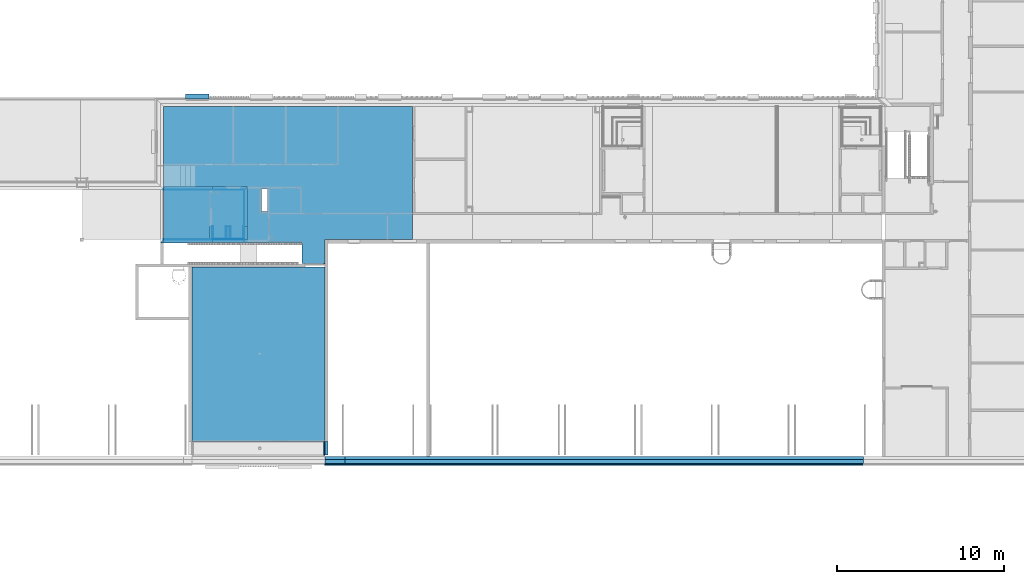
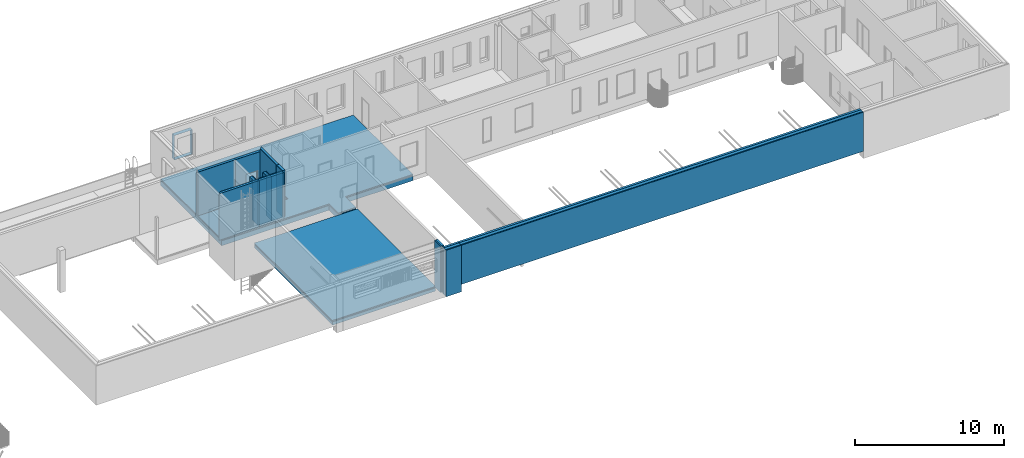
# One storey, part 19 of 100: 38 building element parts, 1 discrete accessory, 3 openings, 13 elements without a shape of their own.
"""IFC2X3 building model written with IfcOpenShell, lengths in millimetres."""

from ifc_helpers import new_model, entity, si_unit, converted_unit, derived_unit, money_unit, direction, frame, origin_with_axes, origin_2d_with_axis, place, context, subcontext, project, spatial, polyline, rectangle, outline, extrude, faceted_brep, source, transform, mapped, material, type_object, element, aggregate, save


model = new_model("IFC2X3")

# Units and contexts
model_context = context("Model", 3, precision=0.01, world=origin_with_axes(), true_north=direction((0.0, 1.0)))
body_context = subcontext(model_context, "Body", "Model", "MODEL_VIEW")
ifc_project = project(units=[si_unit("LENGTHUNIT", "METRE", prefix="MILLI"), si_unit("AREAUNIT", "SQUARE_METRE"), si_unit("VOLUMEUNIT", "CUBIC_METRE"), converted_unit("PLANEANGLEUNIT", "DEGREE", entity("IfcPlaneAngleMeasure", 0.0174532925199), si_unit("PLANEANGLEUNIT", "RADIAN"), dimensions=[0, 0, 0, 0, 0, 0, 0]), si_unit("SOLIDANGLEUNIT", "STERADIAN"), money_unit("EUR"), converted_unit("TIMEUNIT", "Year", entity("IfcTimeMeasure", 31556926.0), si_unit("TIMEUNIT", "SECOND"), dimensions=[0, 0, 1, 0, 0, 0, 0]), si_unit("MASSUNIT", "GRAM", prefix="KILO"), si_unit("THERMODYNAMICTEMPERATUREUNIT", "DEGREE_CELSIUS"), si_unit("LUMINOUSINTENSITYUNIT", "LUMEN"), si_unit("ENERGYUNIT", "JOULE", prefix="MEGA"), derived_unit("THERMALCONDUCTANCEUNIT", [(si_unit("POWERUNIT", "WATT"), 1), (si_unit("LENGTHUNIT", "METRE"), -1), (si_unit("THERMODYNAMICTEMPERATUREUNIT", "KELVIN"), -1)]), derived_unit("SPECIFICHEATCAPACITYUNIT", [(si_unit("ENERGYUNIT", "JOULE"), 1), (si_unit("MASSUNIT", "GRAM", prefix="KILO"), -1), (si_unit("THERMODYNAMICTEMPERATUREUNIT", "KELVIN"), -1)]), derived_unit("MASSDENSITYUNIT", [(si_unit("MASSUNIT", "GRAM", prefix="KILO"), 1), (si_unit("VOLUMEUNIT", "CUBIC_METRE"), -1)])], contexts=[model_context])

# Site, building, storey
site_placement = place(None, origin_with_axes())
site = spatial("IfcSite", under=ifc_project, at=site_placement, Name="Politse- ja Piirivalveameti ning Päästeameti ühishoone", CompositionType="ELEMENT")
building_placement = place(site_placement, origin_with_axes())
building = spatial("IfcBuilding", under=site, at=building_placement, Name="Politse- ja Piirivalveameti ning Päästeameti ühishoone", CompositionType="ELEMENT")
storey_placement = place(building_placement, frame((0.0, 0.0, 3800.0), z_axis=(0.0, 0.0, 1.0), x_axis=(1.0, 0.0, 0.0)))
storey = spatial("IfcBuildingStorey", under=building, at=storey_placement, Name="Teine korrus", CompositionType="ELEMENT", Elevation=3800.0)

# Discrete accessory
ifc_material_1 = material(Name="SV-01_Krohv - Kips")
discrete_accessory_type = type_object("IfcDiscreteAccessoryType", Name="Architrave 01 23")
shared_shape = source(origin_with_axes(), body_context, "Body", "Brep", [
    faceted_brep([(700.0, 0.0, -10.0), (700.0, -300.182356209, -10.0), (-700.0, -300.182356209, -10.0), (-700.0, 0.0, -10.0), (690.0, 0.0, 0.0), (690.0, -300.182356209, 0.0), (-690.0, -300.182356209, 0.0), (-690.0, 0.0, 0.0)], [[[0, 1, 2, 3]], [[4, 5, 1, 0]], [[1, 5, 6, 2]], [[3, 2, 6, 7]], [[0, 3, 7, 4]], [[7, 6, 5, 4]]]),
    faceted_brep([(-700.0, 0.0, -10.0), (-700.0, -300.182356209, -10.0), (-700.0, -300.182356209, 1990.0), (-700.0, 0.0, 1990.0), (-690.0, 0.0, 0.0), (-690.0, -300.182356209, 0.0), (-690.0, -300.182356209, 1980.0), (-690.0, 0.0, 1980.0)], [[[0, 1, 2, 3]], [[4, 5, 1, 0]], [[1, 5, 6, 2]], [[3, 2, 6, 7]], [[0, 3, 7, 4]], [[7, 6, 5, 4]]]),
    faceted_brep([(-700.0, 0.0, 1990.0), (-700.0, -300.182356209, 1990.0), (700.0, -300.182356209, 1990.0), (700.0, 0.0, 1990.0), (-690.0, 0.0, 1980.0), (-690.0, -300.182356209, 1980.0), (690.0, -300.182356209, 1980.0), (690.0, 0.0, 1980.0)], [[[0, 1, 2, 3]], [[4, 5, 1, 0]], [[1, 5, 6, 2]], [[3, 2, 6, 7]], [[0, 3, 7, 4]], [[7, 6, 5, 4]]]),
    faceted_brep([(700.0, 0.0, 1990.0), (700.0, -300.182356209, 1990.0), (700.0, -300.182356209, -10.0), (700.0, 0.0, -10.0), (690.0, 0.0, 1980.0), (690.0, -300.182356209, 1980.0), (690.0, -300.182356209, 0.0), (690.0, 0.0, 0.0)], [[[0, 1, 2, 3]], [[4, 5, 1, 0]], [[1, 5, 6, 2]], [[3, 2, 6, 7]], [[0, 3, 7, 4]], [[7, 6, 5, 4]]]),
])
discrete_accessory_placement = place(storey_placement, frame((18908.8836062, 21429.9520832, 810.0), z_axis=(0.0, 0.0, 1.0), x_axis=(-1.0, 0.0, 0.0)))
element("IfcDiscreteAccessory", 1, at=discrete_accessory_placement, inside=storey, type_object=discrete_accessory_type, material=ifc_material_1, Name="AKNARAAM 01", context=body_context, shape_type="MappedRepresentation", body=[
    mapped(shared_shape, transform((0.0, 0.0, 0.0))),
])

# Wall, building element parts
wall_type_1 = type_object("IfcWallType", Name="SS-05_Sisesein - relvaruum 205", PredefinedType="NOTDEFINED")
wall_1_placement = place(storey_placement, frame((16915.2858198, 13015.0198611, 0.0), z_axis=(0.0, 0.0, 1.0), x_axis=(1.0, 0.0, 0.0)))
wall_1 = element("IfcWall", 2, at=wall_1_placement, inside=storey, type_object=wall_type_1, Name="SS-05")
ifc_material_2 = material(Name="ET-05_Teras")
building_element_part_1_placement = place(wall_1_placement, origin_with_axes())
building_element_part_1 = element("IfcBuildingElementPart", 3, at=building_element_part_1_placement, material=ifc_material_2, Name="ET-05_Teras", context=body_context, shape_type="SweptSolid", body=[
    extrude(outline(polyline([(-15.0, -15.0), (2905.10605219, -15.0), (2904.74019853, 0.0), (0.0, 0.0), (-15.0, -15.0)])), origin_with_axes(), (0.0, 0.0, 1.0), 3800.0),
])
ifc_material_3 = material(Name="KON-05_Betoon Plokk - Konstuktsioon")
building_element_part_2_placement = place(wall_1_placement, origin_with_axes())
building_element_part_2 = element("IfcBuildingElementPart", 4, at=building_element_part_2_placement, material=ifc_material_3, Name="KON-05_Betoon Plokk - Konstuktsioon", context=body_context, shape_type="SweptSolid", body=[
    extrude(outline(polyline([(-205.0, -205.0), (2909.74019853, -205.0), (2905.10605219, -15.0), (-15.0, -15.0), (-205.0, -205.0)])), origin_with_axes(), (0.0, 0.0, 1.0), 3800.0),
])
aggregate(wall_1, [building_element_part_1, building_element_part_2])

# Slab, building element parts
slab_type_1 = type_object("IfcSlabType", Name="VL-04_Vahelagi   265 paneel 385", PredefinedType="ROOF")
slab_1_placement = place(storey_placement, frame((26569.7008828, 899.772752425, 5.55434094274e-05), z_axis=(0.0, 0.0, 1.0), x_axis=(1.0, 0.0, 0.0)))
slab_1 = element("IfcSlab", 5, at=slab_1_placement, inside=storey, type_object=slab_type_1, Name="VL-04", PredefinedType="ROOF")
ifc_material_4 = material(Name="KON-06_Raudbetoon - Konstruktsioon")
building_element_part_3_placement = place(slab_1_placement, origin_with_axes())
building_element_part_3 = element("IfcBuildingElementPart", 6, at=building_element_part_3_placement, material=ifc_material_4, Name="KON-06_Raudbetoon - Konstruktsioon", context=body_context, shape_type="SweptSolid", body=[
    extrude(outline(polyline([(0.0, 0.0), (0.0, 10470.2471087), (-7979.61277161, 10470.2471087), (-7979.61277161, 0.0), (0.0, 0.0)])), frame((0.0, 0.0, -385.0), z_axis=(0.0, 0.0, 1.0), x_axis=(1.0, 0.0, 0.0)), (0.0, 0.0, 1.0), 265.0),
])
ifc_material_5 = material(Name="SOJ-04_Soojustus - Mineraal Kõva")
building_element_part_4_placement = place(slab_1_placement, origin_with_axes())
building_element_part_4 = element("IfcBuildingElementPart", 7, at=building_element_part_4_placement, material=ifc_material_5, Name="SOJ-04_Soojustus - Mineraal Kõva", context=body_context, shape_type="SweptSolid", body=[
    extrude(outline(polyline([(0.0, 0.0), (0.0, 10470.2471087), (-7979.61277161, 10470.2471087), (-7979.61277161, 0.0), (0.0, 0.0)])), frame((0.0, 0.0, -120.0), z_axis=(0.0, 0.0, 1.0), x_axis=(1.0, 0.0, 0.0)), (0.0, 0.0, 1.0), 30.0),
])
ifc_material_6 = material(Name="VKR-01_Betoon")
building_element_part_5_placement = place(slab_1_placement, origin_with_axes())
building_element_part_5 = element("IfcBuildingElementPart", 8, at=building_element_part_5_placement, material=ifc_material_6, Name="VKR-01_Betoon", context=body_context, shape_type="SweptSolid", body=[
    extrude(outline(polyline([(0.0, 0.0), (0.0, 10470.2471087), (-7979.61277161, 10470.2471087), (-7979.61277161, 0.0), (0.0, 0.0)])), frame((0.0, 0.0, -90.0), z_axis=(0.0, 0.0, 1.0), x_axis=(1.0, 0.0, 0.0)), (0.0, 0.0, 1.0), 90.0),
])
aggregate(slab_1, [building_element_part_3, building_element_part_4, building_element_part_5])

# Wall, building element parts
wall_2_placement = place(storey_placement, frame((16915.2858198, 15984.8176113, 0.0), z_axis=(0.0, 0.0, 1.0), x_axis=(1.0, 0.0, 0.0)))
wall_2 = element("IfcWall", 9, at=wall_2_placement, inside=storey, type_object=wall_type_1, Name="SS-05")
building_element_part_6_placement = place(wall_2_placement, origin_with_axes())
building_element_part_6 = element("IfcBuildingElementPart", 10, at=building_element_part_6_placement, material=ifc_material_2, Name="ET-05_Teras", context=body_context, shape_type="SweptSolid", body=[
    extrude(outline(polyline([(0.0, 0.0), (2904.74019853, 0.0), (2904.74019853, 15.0), (0.0, 15.0), (0.0, 0.0)])), origin_with_axes(), (0.0, 0.0, 1.0), 3575.0),
])
building_element_part_7_placement = place(wall_2_placement, origin_with_axes())
building_element_part_7 = element("IfcBuildingElementPart", 11, at=building_element_part_7_placement, material=ifc_material_3, Name="KON-05_Betoon Plokk - Konstuktsioon", context=body_context, shape_type="SweptSolid", body=[
    extrude(outline(polyline([(0.0, 15.0), (2904.74019853, 15.0), (2904.74019853, 205.0), (0.0, 205.0), (0.0, 15.0)])), origin_with_axes(), (0.0, 0.0, 1.0), 3575.0),
])
aggregate(wall_2, [building_element_part_6, building_element_part_7])

wall_3_placement = place(storey_placement, frame((21715.0260184, 15984.8176113, 0.0), z_axis=(0.0, 0.0, 1.0), x_axis=(0.0, -1.0, 0.0)))
wall_3 = element("IfcWall", 12, at=wall_3_placement, inside=storey, type_object=wall_type_1, Name="SS-05")
building_element_part_8_placement = place(wall_3_placement, origin_with_axes())
building_element_part_8 = element("IfcBuildingElementPart", 13, at=building_element_part_8_placement, material=ifc_material_2, Name="ET-05_Teras", context=body_context, shape_type="SweptSolid", body=[
    extrude(outline(polyline([(0.0, 0.0), (2184.79775023, 0.0), (2184.79775023, 15.0), (-15.0, 15.0), (0.0, 0.0)])), origin_with_axes(), (0.0, 0.0, 1.0), 3800.0),
])
building_element_part_9_placement = place(wall_3_placement, origin_with_axes())
building_element_part_9 = element("IfcBuildingElementPart", 14, at=building_element_part_9_placement, material=ifc_material_3, Name="KON-05_Betoon Plokk - Konstuktsioon", context=body_context, shape_type="SweptSolid", body=[
    extrude(outline(polyline([(-15.0, 15.0), (2184.79775023, 15.0), (2184.79775023, 205.0), (-205.0, 205.0), (-15.0, 15.0)])), origin_with_axes(), (0.0, 0.0, 1.0), 3800.0),
])
aggregate(wall_3, [building_element_part_8, building_element_part_9])

# Slab, opening, building element parts
slab_type_2 = type_object("IfcSlabType", Name="VL-05_Vahelagi   400 paneel 520", PredefinedType="NOTDEFINED")
slab_2_placement = place(storey_placement, frame((16900.0594076, 20999.8074993, 0.0), z_axis=(0.0, 0.0, 1.0), x_axis=(1.0, 0.0, 0.0)))
slab_2 = element("IfcSlab", 15, at=slab_2_placement, inside=storey, type_object=slab_type_2, Name="VL-05", PredefinedType="NOTDEFINED")
opening_1_placement = place(slab_2_placement, frame((5869.96995732, -4949.80621906, 0.0), z_axis=(0.0, 0.0, 1.0), x_axis=(-4.17300474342e-06, -0.999999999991, 0.0)))
element("IfcOpeningElement", 16, at=opening_1_placement, cuts=slab_2, Name="Slab Opening", context=body_context, shape_type="SweptSolid", body=[
    extrude(outline(polyline([(0.0, 0.0), (1359.95836559, 0.0), (1359.95690503, 350.000000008), (-6.03161964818e-09, 350.000000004), (0.0, 0.0)])), frame((0.0, 0.0, -520.0), z_axis=(0.0, 0.0, 1.0), x_axis=(1.0, 0.0, 0.0)), (0.0, 0.0, 1.0), 520.0),
])
building_element_part_10_placement = place(slab_2_placement, origin_with_axes())
building_element_part_10 = element("IfcBuildingElementPart", 17, at=building_element_part_10_placement, material=ifc_material_4, Name="KON-06_Raudbetoon - Konstruktsioon", context=body_context, shape_type="SweptSolid", body=[
    extrude(outline(polyline([(0.0, 0.0), (0.226314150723, -8189.78764638), (8299.96656827, -8189.78764638), (8299.96656827, -9434.78763818), (9669.64147523, -9439.78763818), (9669.64158211, -7999.78756957), (14909.9706085, -7999.78756957), (14909.9706085, 0.049768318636), (0.0, 0.0)])), frame((0.0, 0.0, -520.0), z_axis=(0.0, 0.0, 1.0), x_axis=(1.0, 0.0, 0.0)), (0.0, 0.0, 1.0), 400.0),
])
building_element_part_11_placement = place(slab_2_placement, origin_with_axes())
building_element_part_11 = element("IfcBuildingElementPart", 18, at=building_element_part_11_placement, material=ifc_material_5, Name="SOJ-04_Soojustus - Mineraal Kõva", context=body_context, shape_type="SweptSolid", body=[
    extrude(outline(polyline([(0.0, 0.0), (0.226314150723, -8189.78764638), (8299.96656827, -8189.78764638), (8299.96656827, -9434.78763818), (9669.64147523, -9439.78763818), (9669.64158211, -7999.78756957), (14909.9706085, -7999.78756957), (14909.9706085, 0.049768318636), (0.0, 0.0)])), frame((0.0, 0.0, -120.0), z_axis=(0.0, 0.0, 1.0), x_axis=(1.0, 0.0, 0.0)), (0.0, 0.0, 1.0), 30.0),
])
building_element_part_12_placement = place(slab_2_placement, origin_with_axes())
building_element_part_12 = element("IfcBuildingElementPart", 19, at=building_element_part_12_placement, material=ifc_material_6, Name="VKR-01_Betoon", context=body_context, shape_type="SweptSolid", body=[
    extrude(outline(polyline([(0.0, 0.0), (0.226314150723, -8189.78764638), (8299.96656827, -8189.78764638), (8299.96656827, -9434.78763818), (9669.64147523, -9439.78763818), (9669.64158211, -7999.78756957), (14909.9706085, -7999.78756957), (14909.9706085, 0.049768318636), (0.0, 0.0)])), frame((0.0, 0.0, -90.0), z_axis=(0.0, 0.0, 1.0), x_axis=(1.0, 0.0, 0.0)), (0.0, 0.0, 1.0), 90.0),
])
aggregate(slab_2, [building_element_part_10, building_element_part_11, building_element_part_12])

# Wall, building element parts
wall_type_2 = type_object("IfcWallType", Name="VS-01_välissein 510", PredefinedType="NOTDEFINED")
wall_4_placement = place(storey_placement, frame((27759.7054332, 0.0, 600.0), z_axis=(0.0, 0.0, 1.0), x_axis=(1.0, 0.0, 0.0)))
wall_4 = element("IfcWall", 20, at=wall_4_placement, inside=storey, type_object=wall_type_2, Name="VS-01")
ifc_material_7 = material(Name="KON-04_Betoon - Konstuktsioon")
building_element_part_13_placement = place(wall_4_placement, origin_with_axes())
building_element_part_13 = element("IfcBuildingElementPart", 21, at=building_element_part_13_placement, material=ifc_material_7, Name="KON-04_Betoon - Konstuktsioon", context=body_context, shape_type="SweptSolid", body=[
    extrude(outline(polyline([(0.0, -180.0), (31100.8429647, -180.0), (31100.8429647, 0.0), (0.0, 0.0), (0.0, -180.0)])), origin_with_axes(), (0.0, 0.0, 1.0), 3200.0),
])
ifc_material_8 = material(Name="SOJ-06_Soojustus - Plastik Kõva")
building_element_part_14_placement = place(wall_4_placement, origin_with_axes())
building_element_part_14 = element("IfcBuildingElementPart", 22, at=building_element_part_14_placement, material=ifc_material_8, Name="SOJ-06_Soojustus - Plastik Kõva", context=body_context, shape_type="SweptSolid", body=[
    extrude(outline(polyline([(0.0, -430.0), (31100.8429647, -430.0), (31100.8429647, -180.0), (0.0, -180.0), (0.0, -430.0)])), origin_with_axes(), (0.0, 0.0, 1.0), 3200.0),
])
building_element_part_15_placement = place(wall_4_placement, origin_with_axes())
building_element_part_15 = element("IfcBuildingElementPart", 23, at=building_element_part_15_placement, material=ifc_material_7, Name="KON-04_Betoon - Konstuktsioon", context=body_context, shape_type="SweptSolid", body=[
    extrude(outline(polyline([(0.0, -510.0), (31100.8429647, -510.0), (31100.8429647, -430.0), (0.0, -430.0), (0.0, -510.0)])), origin_with_axes(), (0.0, 0.0, 1.0), 3200.0),
])
aggregate(wall_4, [building_element_part_13, building_element_part_14, building_element_part_15])

# Wall, openings, building element parts
wall_5_placement = place(storey_placement, frame((19820.0260184, 15984.8176113, 0.0), z_axis=(0.0, 0.0, 1.0), x_axis=(1.0, 0.0, 0.0)))
wall_5 = element("IfcWall", 24, at=wall_5_placement, inside=storey, type_object=wall_type_1, Name="SS-05")
opening_2_placement = place(wall_5_placement, frame((1261.76314383, 0.0, 0.0), z_axis=(0.0, 0.0, 1.0), x_axis=(1.0, 0.0, 0.0)))
element("IfcOpeningElement", 25, at=opening_2_placement, cuts=wall_5, Name="TU-01-11", context=body_context, shape_type="SweptSolid", body=[
    extrude(rectangle(XDim=900.0, YDim=2100.0, at=origin_2d_with_axis()), frame((0.0, 90.0, 1050.0), z_axis=(0.0, -1.0, 0.0), x_axis=(1.0, 0.0, 0.0)), (0.0, 0.0, -1.0), 320.0),
    extrude(rectangle(XDim=900.0, YDim=2100.0, at=origin_2d_with_axis()), frame((0.0, 90.0, 1050.0), z_axis=(0.0, 1.0, 0.0), x_axis=(1.0, 0.0, 0.0)), (0.0, 0.0, -1.0), 295.0),
    extrude(rectangle(XDim=974.0, YDim=2137.0, at=origin_2d_with_axis()), frame((0.0, 205.0, 1068.5), z_axis=(0.0, -1.0, 0.0), x_axis=(1.0, 0.0, 0.0)), (0.0, 0.0, -1.0), 295.0),
    extrude(rectangle(XDim=974.0, YDim=2137.0, at=origin_2d_with_axis()), frame((0.0, 0.0, 1068.5), z_axis=(0.0, 1.0, 0.0), x_axis=(1.0, 0.0, 0.0)), (0.0, 0.0, -1.0), 295.0),
])
opening_3_placement = place(wall_5_placement, frame((1261.76314383, 0.0, 0.0), z_axis=(0.0, 0.0, 1.0), x_axis=(1.0, 0.0, 0.0)))
element("IfcOpeningElement", 26, at=opening_3_placement, cuts=wall_5, Name="SU-01-4", context=body_context, shape_type="SweptSolid", body=[
    extrude(rectangle(XDim=900.0, YDim=2100.0, at=origin_2d_with_axis()), frame((0.0, 205.0, 1050.0), z_axis=(0.0, 1.0, 0.0), x_axis=(1.0, 0.0, 0.0)), (0.0, 0.0, -1.0), 615.0),
    extrude(rectangle(XDim=974.0, YDim=2137.0, at=origin_2d_with_axis()), frame((0.0, 205.0, 1068.5), z_axis=(0.0, 1.0, 0.0), x_axis=(1.0, 0.0, 0.0)), (0.0, 0.0, 1.0), 205.0),
    extrude(rectangle(XDim=974.0, YDim=2137.0, at=origin_2d_with_axis()), frame((0.0, 0.0, 1068.5), z_axis=(0.0, -1.0, 0.0), x_axis=(1.0, 0.0, 0.0)), (0.0, 0.0, 1.0), 205.0),
])
building_element_part_16_placement = place(wall_5_placement, origin_with_axes())
building_element_part_16 = element("IfcBuildingElementPart", 27, at=building_element_part_16_placement, material=ifc_material_2, Name="ET-05_Teras", context=body_context, shape_type="SweptSolid", body=[
    extrude(outline(polyline([(0.0, 0.0), (1895.0, 0.0), (1910.0, 15.0), (0.0, 15.0), (0.0, 0.0)])), origin_with_axes(), (0.0, 0.0, 1.0), 3575.0),
])
building_element_part_17_placement = place(wall_5_placement, origin_with_axes())
building_element_part_17 = element("IfcBuildingElementPart", 28, at=building_element_part_17_placement, material=ifc_material_3, Name="KON-05_Betoon Plokk - Konstuktsioon", context=body_context, shape_type="SweptSolid", body=[
    extrude(outline(polyline([(0.0, 15.0), (1910.0, 15.0), (2100.0, 205.0), (0.0, 205.0), (0.0, 15.0)])), origin_with_axes(), (0.0, 0.0, 1.0), 3575.0),
])
aggregate(wall_5, [building_element_part_16, building_element_part_17])

# Wall, building element parts
wall_type_3 = type_object("IfcWallType", Name="SS-16_Sisesein 190 + puit 32 kahel pool 294", PredefinedType="NOTDEFINED")
wall_6_placement = place(storey_placement, frame((20775.0260184, 13800.0198611, 0.0), z_axis=(0.0, 0.0, 1.0), x_axis=(0.0, -1.0, 0.0)))
wall_6 = element("IfcWall", 29, at=wall_6_placement, inside=storey, type_object=wall_type_3, Name="SS-03")
ifc_material_9 = material(Name="ET-01_Puit - Konstruktsioon")
building_element_part_18_placement = place(wall_6_placement, origin_with_axes())
building_element_part_18 = element("IfcBuildingElementPart", 30, at=building_element_part_18_placement, material=ifc_material_9, Name="ET-01_Puit - Konstruktsioon", context=body_context, shape_type="SweptSolid", body=[
    extrude(outline(polyline([(0.0, -147.0), (780.0, -147.0), (780.0, -115.0), (0.0, -115.0), (0.0, -147.0)])), origin_with_axes(), (0.0, 0.0, 1.0), 3576.54246345),
])
ifc_material_10 = material(Name="Õhkvahe")
building_element_part_19_placement = place(wall_6_placement, origin_with_axes())
building_element_part_19 = element("IfcBuildingElementPart", 31, at=building_element_part_19_placement, material=ifc_material_10, Name="Õhkvahe", context=body_context, shape_type="SweptSolid", body=[
    extrude(outline(polyline([(0.0, -115.0), (780.0, -115.0), (780.0, -95.0), (0.0, -95.0), (0.0, -115.0)])), origin_with_axes(), (0.0, 0.0, 1.0), 3576.54246345),
])
building_element_part_20_placement = place(wall_6_placement, origin_with_axes())
building_element_part_20 = element("IfcBuildingElementPart", 32, at=building_element_part_20_placement, material=ifc_material_3, Name="KON-05_Betoon Plokk - Konstuktsioon", context=body_context, shape_type="SweptSolid", body=[
    extrude(outline(polyline([(0.0, -95.0), (780.0, -95.0), (780.0, 95.0), (0.0, 95.0), (0.0, -95.0)])), origin_with_axes(), (0.0, 0.0, 1.0), 3576.54246345),
])
building_element_part_21_placement = place(wall_6_placement, origin_with_axes())
building_element_part_21 = element("IfcBuildingElementPart", 33, at=building_element_part_21_placement, material=ifc_material_10, Name="Õhkvahe", context=body_context, shape_type="SweptSolid", body=[
    extrude(outline(polyline([(0.0, 95.0), (780.0, 95.0), (780.0, 115.0), (0.0, 115.0), (0.0, 95.0)])), origin_with_axes(), (0.0, 0.0, 1.0), 3576.54246345),
])
building_element_part_22_placement = place(wall_6_placement, origin_with_axes())
building_element_part_22 = element("IfcBuildingElementPart", 34, at=building_element_part_22_placement, material=ifc_material_9, Name="ET-01_Puit - Konstruktsioon", context=body_context, shape_type="SweptSolid", body=[
    extrude(outline(polyline([(0.0, 115.0), (780.0, 115.0), (780.0, 147.0), (0.0, 147.0), (0.0, 115.0)])), origin_with_axes(), (0.0, 0.0, 1.0), 3576.54246345),
])
aggregate(wall_6, [building_element_part_18, building_element_part_19, building_element_part_20, building_element_part_21, building_element_part_22])

wall_type_4 = type_object("IfcWallType", Name="SS-15_Sisesein 190 + puit 32 ühel pool 242", PredefinedType="NOTDEFINED")
wall_7_placement = place(storey_placement, frame((19630.0260184, 13800.0198611, 0.0), z_axis=(0.0, 0.0, 1.0), x_axis=(0.0, -1.0, 0.0)))
wall_7 = element("IfcWall", 35, at=wall_7_placement, inside=storey, type_object=wall_type_4, Name="SS-03")
building_element_part_23_placement = place(wall_7_placement, origin_with_axes())
building_element_part_23 = element("IfcBuildingElementPart", 36, at=building_element_part_23_placement, material=ifc_material_9, Name="ET-01_Puit - Konstruktsioon", context=body_context, shape_type="SweptSolid", body=[
    extrude(outline(polyline([(0.0, 210.0), (785.0, 210.0), (785.0, 242.0), (0.0, 242.0), (0.0, 210.0)])), origin_with_axes(), (0.0, 0.0, 1.0), 3576.54246345),
])
building_element_part_24_placement = place(wall_7_placement, origin_with_axes())
building_element_part_24 = element("IfcBuildingElementPart", 37, at=building_element_part_24_placement, material=ifc_material_10, Name="Õhkvahe", context=body_context, shape_type="SweptSolid", body=[
    extrude(outline(polyline([(0.0, 190.0), (785.0, 190.0), (785.0, 210.0), (0.0, 210.0), (0.0, 190.0)])), origin_with_axes(), (0.0, 0.0, 1.0), 3576.54246345),
])
building_element_part_25_placement = place(wall_7_placement, origin_with_axes())
building_element_part_25 = element("IfcBuildingElementPart", 38, at=building_element_part_25_placement, material=ifc_material_3, Name="KON-05_Betoon Plokk - Konstuktsioon", context=body_context, shape_type="SweptSolid", body=[
    extrude(outline(polyline([(0.0, 0.0), (785.0, 0.0), (785.0, 190.0), (0.0, 190.0), (0.0, 0.0)])), origin_with_axes(), (0.0, 0.0, 1.0), 3576.54246345),
])
aggregate(wall_7, [building_element_part_23, building_element_part_24, building_element_part_25])

wall_type_5 = type_object("IfcWallType", Name="SS-14_Sisesein - 190+võrre+puit 257", PredefinedType="NOTDEFINED")
wall_8_placement = place(storey_placement, frame((19820.0260184, 13067.0198611, 0.0), z_axis=(0.0, 0.0, 1.0), x_axis=(1.0, 0.0, 0.0)))
wall_8 = element("IfcWall", 39, at=wall_8_placement, inside=storey, type_object=wall_type_5, Name="SS-05")
ifc_material_11 = material(Name="Puit - Konstruktsioon")
building_element_part_26_placement = place(wall_8_placement, origin_with_axes())
building_element_part_26 = element("IfcBuildingElementPart", 40, at=building_element_part_26_placement, material=ifc_material_11, Name="Puit - Konstruktsioon", context=body_context, shape_type="SweptSolid", body=[
    extrude(outline(polyline([(5.0, -32.0), (1890.0, -32.0), (1890.0, 0.0), (5.0, 0.0), (5.0, -32.0)])), origin_with_axes(), (0.0, 0.0, 1.0), 3800.0),
])
building_element_part_27_placement = place(wall_8_placement, origin_with_axes())
building_element_part_27 = element("IfcBuildingElementPart", 41, at=building_element_part_27_placement, material=ifc_material_10, Name="Õhkvahe", context=body_context, shape_type="SweptSolid", body=[
    extrude(outline(polyline([(5.0, -52.0), (1890.0, -52.0), (1890.0, -32.0), (5.0, -32.0), (5.0, -52.0)])), origin_with_axes(), (0.0, 0.0, 1.0), 3800.0),
])
ifc_material_12 = material(Name="ET-03_Raud")
building_element_part_28_placement = place(wall_8_placement, origin_with_axes())
building_element_part_28 = element("IfcBuildingElementPart", 42, at=building_element_part_28_placement, material=ifc_material_12, Name="ET-03_Raud", context=body_context, shape_type="SweptSolid", body=[
    extrude(outline(polyline([(5.0, -67.0), (1890.0, -67.0), (1890.0, -52.0), (5.0, -52.0), (5.0, -67.0)])), origin_with_axes(), (0.0, 0.0, 1.0), 3800.0),
])
building_element_part_29_placement = place(wall_8_placement, origin_with_axes())
building_element_part_29 = element("IfcBuildingElementPart", 43, at=building_element_part_29_placement, material=ifc_material_3, Name="KON-05_Betoon Plokk - Konstuktsioon", context=body_context, shape_type="SweptSolid", body=[
    extrude(outline(polyline([(5.0, -257.0), (1890.0, -257.0), (1890.0, -67.0), (5.0, -67.0), (5.0, -257.0)])), origin_with_axes(), (0.0, 0.0, 1.0), 3800.0),
])
aggregate(wall_8, [building_element_part_26, building_element_part_27, building_element_part_28, building_element_part_29])

wall_9_placement = place(storey_placement, frame((21663.0260184, 13800.0198611, 0.0), z_axis=(0.0, 0.0, 1.0), x_axis=(0.0, -1.0, 0.0)))
wall_9 = element("IfcWall", 44, at=wall_9_placement, inside=storey, type_object=wall_type_5, Name="SS-05")
building_element_part_30_placement = place(wall_9_placement, origin_with_axes())
building_element_part_30 = element("IfcBuildingElementPart", 45, at=building_element_part_30_placement, material=ifc_material_11, Name="Puit - Konstruktsioon", context=body_context, shape_type="SweptSolid", body=[
    extrude(outline(polyline([(0.0, 0.0), (780.0, 0.0), (780.0, 32.0), (0.0, 32.0), (0.0, 0.0)])), origin_with_axes(), (0.0, 0.0, 1.0), 3800.0),
])
building_element_part_31_placement = place(wall_9_placement, origin_with_axes())
building_element_part_31 = element("IfcBuildingElementPart", 46, at=building_element_part_31_placement, material=ifc_material_10, Name="Õhkvahe", context=body_context, shape_type="SweptSolid", body=[
    extrude(outline(polyline([(0.0, 32.0), (780.0, 32.0), (780.0, 52.0), (0.0, 52.0), (0.0, 32.0)])), origin_with_axes(), (0.0, 0.0, 1.0), 3800.0),
])
building_element_part_32_placement = place(wall_9_placement, origin_with_axes())
building_element_part_32 = element("IfcBuildingElementPart", 47, at=building_element_part_32_placement, material=ifc_material_12, Name="ET-03_Raud", context=body_context, shape_type="SweptSolid", body=[
    extrude(outline(polyline([(0.0, 52.0), (780.0, 52.0), (780.0, 67.0), (0.0, 67.0), (0.0, 52.0)])), origin_with_axes(), (0.0, 0.0, 1.0), 3800.0),
])
building_element_part_33_placement = place(wall_9_placement, origin_with_axes())
building_element_part_33 = element("IfcBuildingElementPart", 48, at=building_element_part_33_placement, material=ifc_material_3, Name="KON-05_Betoon Plokk - Konstuktsioon", context=body_context, shape_type="SweptSolid", body=[
    extrude(outline(polyline([(0.0, 67.0), (780.0, 67.0), (780.0, 257.0), (0.0, 257.0), (0.0, 67.0)])), origin_with_axes(), (0.0, 0.0, 1.0), 3800.0),
])
aggregate(wall_9, [building_element_part_30, building_element_part_31, building_element_part_32, building_element_part_33])

wall_type_6 = type_object("IfcWallType", Name="SS-12 vent õhuvõtt garaaz 270", PredefinedType="NOTDEFINED")
wall_10_placement = place(storey_placement, frame((26489.7008828, 899.772752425, 0.0), z_axis=(0.0, 0.0, 1.0), x_axis=(0.0, -1.0, 0.0)))
wall_10 = element("IfcWall", 49, at=wall_10_placement, inside=storey, type_object=wall_type_6, Name="SS-12")
ifc_material_13 = material(Name="SOJ-02_Soojustus - Fiiber Kõva")
building_element_part_34_placement = place(wall_10_placement, origin_with_axes())
building_element_part_34 = element("IfcBuildingElementPart", 50, at=building_element_part_34_placement, material=ifc_material_13, Name="SOJ-02_Soojustus - Fiiber Kõva", context=body_context, shape_type="SweptSolid", body=[
    extrude(outline(polyline([(0.0, 0.0), (819.772752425, 0.0), (819.772752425, 80.0), (0.0, 80.0), (0.0, 0.0)])), origin_with_axes(), (0.0, 0.0, 1.0), 3800.0),
])
building_element_part_35_placement = place(wall_10_placement, origin_with_axes())
building_element_part_35 = element("IfcBuildingElementPart", 51, at=building_element_part_35_placement, material=ifc_material_3, Name="KON-05_Betoon Plokk - Konstuktsioon", context=body_context, shape_type="SweptSolid", body=[
    extrude(outline(polyline([(0.0, 80.0), (819.772752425, 80.0), (819.772752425, 270.0), (0.0, 270.0), (0.0, 80.0)])), origin_with_axes(), (0.0, 0.0, 1.0), 3800.0),
])
aggregate(wall_10, [building_element_part_34, building_element_part_35])

wall_11_placement = place(storey_placement, frame((26569.7008828, 0.0, 0.0), z_axis=(0.0, 0.0, 1.0), x_axis=(1.0, 0.0, 0.0)))
wall_11 = element("IfcWall", 52, at=wall_11_placement, inside=storey, type_object=wall_type_2, Name="VS-01")
building_element_part_36_placement = place(wall_11_placement, origin_with_axes())
building_element_part_36 = element("IfcBuildingElementPart", 53, at=building_element_part_36_placement, material=ifc_material_7, Name="KON-04_Betoon - Konstuktsioon", context=body_context, shape_type="SweptSolid", body=[
    extrude(outline(polyline([(0.0, -180.0), (1190.00455042, -180.0), (1190.00455042, 0.0), (0.0, 0.0), (0.0, -180.0)])), origin_with_axes(), (0.0, 0.0, 1.0), 3800.0),
])
building_element_part_37_placement = place(wall_11_placement, origin_with_axes())
building_element_part_37 = element("IfcBuildingElementPart", 54, at=building_element_part_37_placement, material=ifc_material_8, Name="SOJ-06_Soojustus - Plastik Kõva", context=body_context, shape_type="SweptSolid", body=[
    extrude(outline(polyline([(0.0, -430.0), (1190.00455042, -430.0), (1190.00455042, -180.0), (0.0, -180.0), (0.0, -430.0)])), origin_with_axes(), (0.0, 0.0, 1.0), 3800.0),
])
building_element_part_38_placement = place(wall_11_placement, origin_with_axes())
building_element_part_38 = element("IfcBuildingElementPart", 55, at=building_element_part_38_placement, material=ifc_material_7, Name="KON-04_Betoon - Konstuktsioon", context=body_context, shape_type="SweptSolid", body=[
    extrude(outline(polyline([(0.0, -510.0), (1190.00455042, -510.0), (1190.00455042, -430.0), (0.0, -430.0), (0.0, -510.0)])), origin_with_axes(), (0.0, 0.0, 1.0), 3800.0),
])
aggregate(wall_11, [building_element_part_36, building_element_part_37, building_element_part_38])

save(model, "model.ifc")
